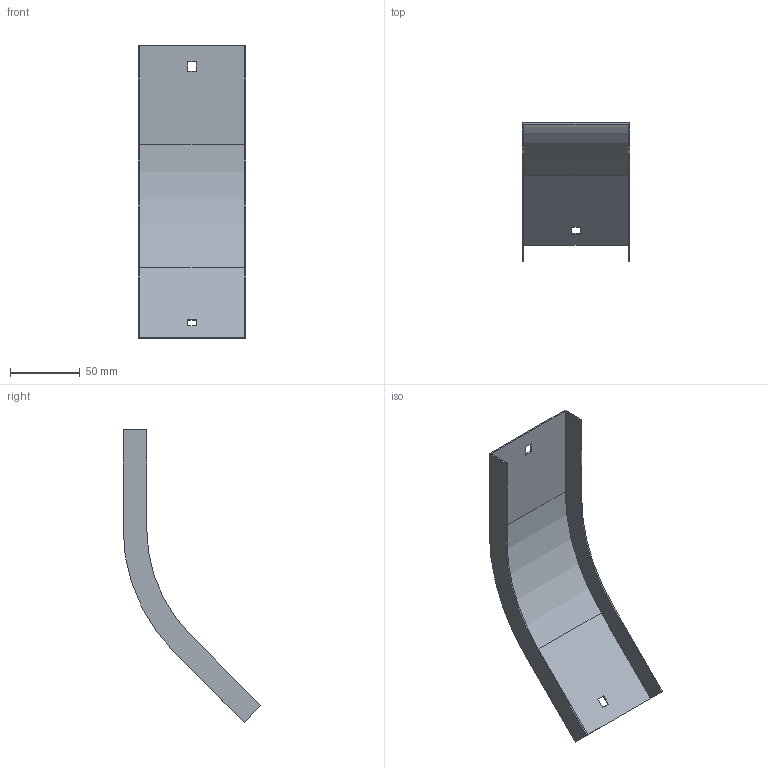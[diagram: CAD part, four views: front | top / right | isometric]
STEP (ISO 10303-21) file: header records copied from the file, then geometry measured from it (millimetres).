
FILE_DESCRIPTION (( 'STEP AP214' ), '1' );
FILE_NAME ('OD4_077.step', '2025-07-16T09:11:09', ( '' ), ( '' ), 'SwSTEP 2.0', 'SolidWorks 2023', '' );
FILE_SCHEMA (( 'AUTOMOTIVE_DESIGN' ));
Length unit declared in the file: millimetre
Products named in the file (1): OD4_077
Bounding box: 77 x 99.13 x 210.3 mm (x, y, z)
Volume: 25924.2 mm3; surface area: 52574.5 mm2
Topology: 1 solids, 1 shells, 26 faces, 72 edges, 48 vertices
Faces by surface type: plane 22, cylinder 4
Entity records: 855 total; most frequent: CARTESIAN_POINT 147, ORIENTED_EDGE 144, DIRECTION 134, EDGE_CURVE 72, LINE 64, VECTOR 64, VERTEX_POINT 48, AXIS2_PLACEMENT_3D 35
